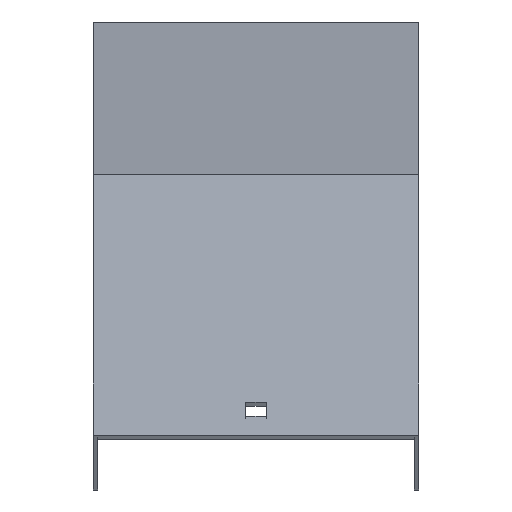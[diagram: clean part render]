
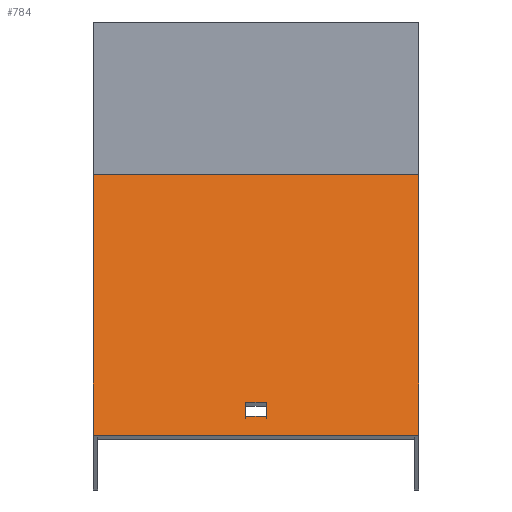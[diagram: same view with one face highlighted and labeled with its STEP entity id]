
A CAD part, top view. The second image highlights one B-rep face of the part: STEP entity #784.
In plain terms, the highlighted planar face has unit normal (0, 0.866, 0.5).
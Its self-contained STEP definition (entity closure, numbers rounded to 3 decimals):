
#4 = VECTOR ( 'NONE', #421, 1000. ) ;
#7 = LINE ( 'NONE', #599, #808 ) ;
#17 = EDGE_CURVE ( 'NONE', #562, #668, #261, .T. ) ;
#27 = EDGE_CURVE ( 'NONE', #443, #506, #38, .T. ) ;
#38 = LINE ( 'NONE', #305, #594 ) ;
#41 = DIRECTION ( 'NONE',  ( 0., -0.5, 0.866 ) ) ;
#51 = ORIENTED_EDGE ( 'NONE', *, *, #187, .F. ) ;
#54 = DIRECTION ( 'NONE',  ( 0., 0.5, -0.866 ) ) ;
#80 = LINE ( 'NONE', #341, #98 ) ;
#94 = ORIENTED_EDGE ( 'NONE', *, *, #327, .T. ) ;
#98 = VECTOR ( 'NONE', #606, 1000. ) ;
#115 = ORIENTED_EDGE ( 'NONE', *, *, #27, .T. ) ;
#120 = DIRECTION ( 'NONE',  ( 0., -0.866, -0.5 ) ) ;
#139 = VECTOR ( 'NONE', #41, 1000. ) ;
#167 = VECTOR ( 'NONE', #291, 1000. ) ;
#178 = CARTESIAN_POINT ( 'NONE',  ( 51.5, -29.785, 348.799 ) ) ;
#187 = EDGE_CURVE ( 'NONE', #220, #668, #480, .T. ) ;
#220 = VERTEX_POINT ( 'NONE', #298 ) ;
#224 = CARTESIAN_POINT ( 'NONE',  ( 51.5, -28.468, 346.518 ) ) ;
#248 = PLANE ( 'NONE',  #724 ) ;
#261 = LINE ( 'NONE', #722, #529 ) ;
#264 = VERTEX_POINT ( 'NONE', #696 ) ;
#286 = DIRECTION ( 'NONE',  ( -1., 0., 0. ) ) ;
#291 = DIRECTION ( 'NONE',  ( 0., -0.5, 0.866 ) ) ;
#292 = VERTEX_POINT ( 'NONE', #224 ) ;
#298 = CARTESIAN_POINT ( 'NONE',  ( 51.5, -111.285, 489.961 ) ) ;
#305 = CARTESIAN_POINT ( 'NONE',  ( 51.5, -100.785, 471.774 ) ) ;
#311 = EDGE_LOOP ( 'NONE', ( #115, #94, #549, #495 ) ) ;
#327 = EDGE_CURVE ( 'NONE', #506, #264, #699, .T. ) ;
#341 = CARTESIAN_POINT ( 'NONE',  ( 51.5, -28.468, 346.518 ) ) ;
#356 = CARTESIAN_POINT ( 'NONE',  ( -51.5, -111.285, 489.961 ) ) ;
#360 = ORIENTED_EDGE ( 'NONE', *, *, #17, .T. ) ;
#362 = CARTESIAN_POINT ( 'NONE',  ( 51.5, -105.285, 479.568 ) ) ;
#370 = EDGE_CURVE ( 'NONE', #264, #848, #748, .T. ) ;
#374 = DIRECTION ( 'NONE',  ( 0., -0.5, 0.866 ) ) ;
#377 = ORIENTED_EDGE ( 'NONE', *, *, #613, .T. ) ;
#382 = CARTESIAN_POINT ( 'NONE',  ( -3.25, -100.785, 471.774 ) ) ;
#421 = DIRECTION ( 'NONE',  ( -1., 0., 0. ) ) ;
#423 = CARTESIAN_POINT ( 'NONE',  ( 51.5, -29.785, 348.799 ) ) ;
#443 = VERTEX_POINT ( 'NONE', #382 ) ;
#480 = LINE ( 'NONE', #692, #499 ) ;
#481 = LINE ( 'NONE', #423, #167 ) ;
#490 = EDGE_CURVE ( 'NONE', #848, #443, #7, .T. ) ;
#495 = ORIENTED_EDGE ( 'NONE', *, *, #490, .T. ) ;
#499 = VECTOR ( 'NONE', #286, 1000. ) ;
#506 = VERTEX_POINT ( 'NONE', #800 ) ;
#529 = VECTOR ( 'NONE', #374, 1000. ) ;
#531 = DIRECTION ( 'NONE',  ( 0., 0.5, -0.866 ) ) ;
#549 = ORIENTED_EDGE ( 'NONE', *, *, #370, .T. ) ;
#562 = VERTEX_POINT ( 'NONE', #669 ) ;
#581 = FACE_OUTER_BOUND ( 'NONE', #703, .T. ) ;
#594 = VECTOR ( 'NONE', #773, 1000. ) ;
#599 = CARTESIAN_POINT ( 'NONE',  ( -3.25, -29.785, 348.799 ) ) ;
#606 = DIRECTION ( 'NONE',  ( -1., 0., 0. ) ) ;
#613 = EDGE_CURVE ( 'NONE', #292, #562, #80, .T. ) ;
#630 = CARTESIAN_POINT ( 'NONE',  ( -3.25, -105.285, 479.568 ) ) ;
#668 = VERTEX_POINT ( 'NONE', #356 ) ;
#669 = CARTESIAN_POINT ( 'NONE',  ( -51.5, -28.468, 346.518 ) ) ;
#678 = EDGE_CURVE ( 'NONE', #292, #220, #481, .T. ) ;
#692 = CARTESIAN_POINT ( 'NONE',  ( 51.5, -111.285, 489.961 ) ) ;
#696 = CARTESIAN_POINT ( 'NONE',  ( 3.25, -105.285, 479.568 ) ) ;
#699 = LINE ( 'NONE', #816, #139 ) ;
#703 = EDGE_LOOP ( 'NONE', ( #360, #51, #706, #377 ) ) ;
#706 = ORIENTED_EDGE ( 'NONE', *, *, #678, .F. ) ;
#722 = CARTESIAN_POINT ( 'NONE',  ( -51.5, -29.785, 348.799 ) ) ;
#724 = AXIS2_PLACEMENT_3D ( 'NONE', #178, #120, #54 ) ;
#748 = LINE ( 'NONE', #362, #4 ) ;
#768 = FACE_BOUND ( 'NONE', #311, .T. ) ;
#773 = DIRECTION ( 'NONE',  ( 1., 0., 0. ) ) ;
#784 = ADVANCED_FACE ( 'NONE', ( #768, #581 ), #248, .F. ) ;
#800 = CARTESIAN_POINT ( 'NONE',  ( 3.25, -100.785, 471.774 ) ) ;
#808 = VECTOR ( 'NONE', #531, 1000. ) ;
#816 = CARTESIAN_POINT ( 'NONE',  ( 3.25, -29.785, 348.799 ) ) ;
#848 = VERTEX_POINT ( 'NONE', #630 ) ;
